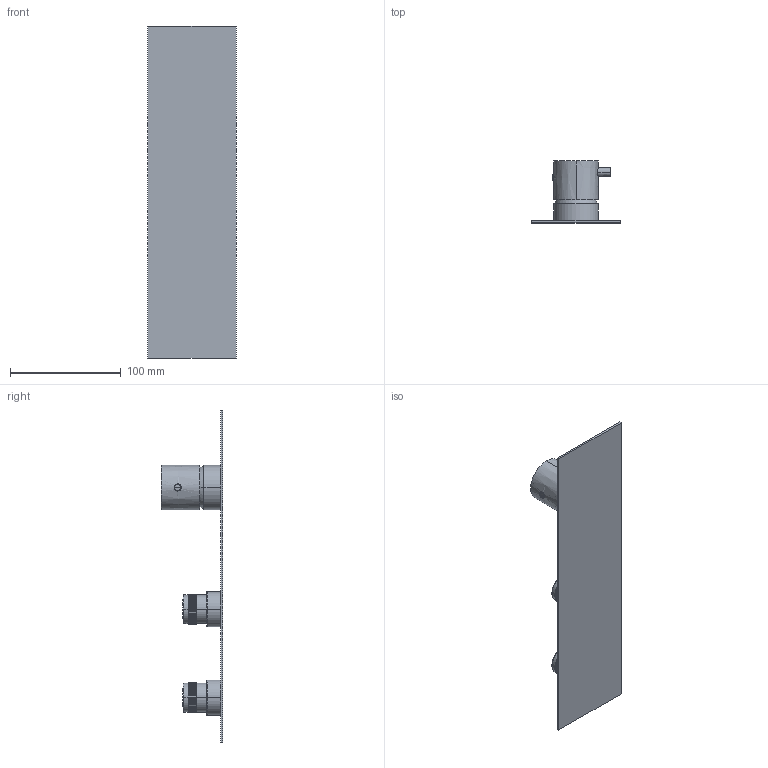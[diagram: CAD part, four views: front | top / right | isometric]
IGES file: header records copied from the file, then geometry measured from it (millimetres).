
Start section:  PTC IGES file: 69000v2.igs
Global section: file name: 69000v2.igs; native system: Creo Parametric by PTC Inc.; preprocessor: 2022014; author: carloff; organization: Unknown; date: 20251125.145747; units: millimetre
Bounding box: 80 x 55.7 x 300 mm (x, y, z)
Surface area: 63550.8 mm2 (no closed solid volume)
Topology: 0 solids, 0 shells, 3312 faces, 16494 edges, 16488 vertices
Faces by surface type: bspline 2582, revolution 730
